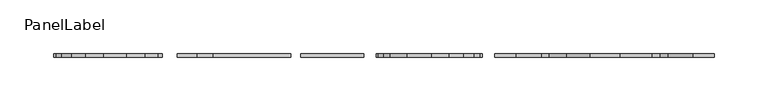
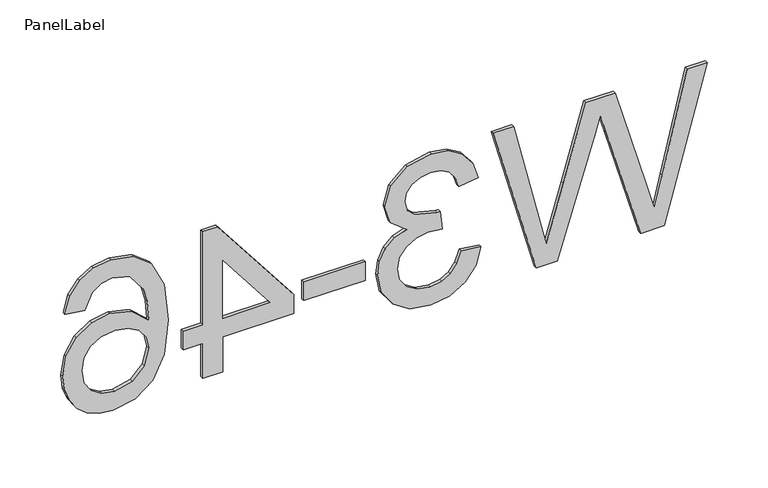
"""IFC4 building model written with IfcOpenShell, lengths in millimetres: fastener geometry, PanelLabel : Miranda."""

from ifc_helpers import new_model, si_unit, frame, origin, place, context, project, spatial, polyline, outline, extrude, source, transform, mapped, element, save


def panellabel_f90ff313(model_context):
    return source(origin(), model_context, "Body", "SweptSolid", [
        extrude(outline(polyline([(1310.9113766, 268.5683654), (1460.9667612, 309.4892308), (1460.9667612, 290.1461538), (1362.3463766, 266.4069231), (1331.9030112, 259.08), (1358.8294535, 251.2401923), (1460.9667612, 221.4928846), (1460.9667612, 193.6139423), (1386.9282035, 171.9995192), (1331.9030112, 155.9169231), (1361.4671458, 148.8098077), (1460.9667612, 124.8507692), (1460.9667612, 105.5076923), (1310.9113766, 146.4651923), (1310.9113766, 166.5043269), (1426.6767612, 202.4795192), (1442.8326266, 207.4984615), (1423.3796458, 213.1401923), (1310.9113766, 245.9281731), (1310.9113766, 268.5683654)])), frame((0.0, 100.80625, 0.0), z_axis=(0.0, 1.0, 0.0), x_axis=(0.0, 0.0, 1.0)), (0.0, 0.0, 1.0), 3.175),
        extrude(outline(polyline([(1350.7698381, 93.7846154), (1353.1144535, 75.0276923), (1341.327266, 70.8284495), (1333.3683958, 64.6784135), (1328.8348622, 56.2753486), (1327.3236843, 45.3170192), (1329.4026987, 32.4582692), (1335.639742, 22.5302885), (1344.9449343, 16.1833413), (1356.2283958, 14.0676923), (1366.9394415, 16.165024), (1375.6264247, 22.4570192), (1381.3826386, 31.9820192), (1383.3013766, 43.7783654), (1381.2498381, 56.9301923), (1400.0067612, 54.8420192), (1399.7869535, 51.8379808), (1405.172242, 30.5532692), (1412.0045977, 23.4644712), (1421.7310881, 21.1015385), (1429.8319174, 22.8142067), (1436.4032516, 27.9522115), (1440.7581915, 35.7920192), (1442.2098381, 45.6100962), (1440.7444535, 55.4464904), (1436.3482997, 63.4877885), (1429.0213766, 69.3584856), (1418.7636843, 72.6830769), (1421.1082997, 91.44), (1437.9510641, 85.9173317), (1450.5258958, 76.0900962), (1458.3565448, 62.6451923), (1460.9667612, 46.2695192), (1455.8195977, 23.6476442), (1441.7519054, 7.8214904), (1422.8301266, 2.3446154), (1405.5385881, 7.5467308), (1393.1194535, 22.9332692), (1388.3752708, 11.191875), (1380.2973381, 2.4911538), (1369.3252708, -2.8941346), (1355.8986843, -4.6892308), (1337.6180112, -1.0990385), (1322.3413766, 9.6715385), (1312.010415, 25.928149), (1308.5667612, 45.9764423), (1311.5066891, 64.1105769), (1320.3264727, 78.8743269), (1333.8171698, 89.1411779), (1350.7698381, 93.7846154)])), frame((0.0, 100.80625, 0.0), z_axis=(0.0, 1.0, 0.0), x_axis=(0.0, 0.0, 1.0)), (0.0, 0.0, 1.0), 3.175),
        extrude(outline(polyline([(-75.0276923, 103.98125), (-16.4123077, 103.98125), (-16.4123077, 100.80625), (-75.0276923, 100.80625), (-75.0276923, 103.98125)])), frame((0.0, 0.0, 1355.4590689), z_axis=(0.0, 0.0, 1.0), x_axis=(1.0, 0.0, 0.0)), (0.0, 0.0, 1.0), 18.7569231),
        extrude(outline(polyline([(1310.9113766, -152.4), (1346.0806073, -152.4), (1346.0806073, -84.4061538), (1364.8375304, -84.4061538), (1458.6221458, -157.0892308), (1458.6221458, -171.1569231), (1364.8375304, -171.1569231), (1364.8375304, -189.9138462), (1346.0806073, -189.9138462), (1346.0806073, -171.1569231), (1310.9113766, -171.1569231), (1310.9113766, -152.4)]), holes=[polyline([(1364.8375304, -152.4), (1422.793492, -152.4), (1364.8375304, -107.4859615), (1364.8375304, -152.4)])]), frame((0.0, 100.80625, 0.0), z_axis=(0.0, 1.0, 0.0), x_axis=(0.0, 0.0, 1.0)), (0.0, 0.0, 1.0), 3.175),
        extrude(outline(polyline([(1421.1082997, -302.4553846), (1418.7636843, -283.6984615), (1434.406665, -276.5913462), (1440.2590448, -268.0829567), (1442.2098381, -257.7977885), (1437.6671458, -240.8725962), (1420.6137323, -228.0687981), (1406.6422059, -224.1809495), (1387.1846458, -222.7384615), (1402.1498862, -239.2789904), (1407.0406073, -259.7760577), (1403.6976987, -277.1042308), (1393.6689727, -291.6481731), (1378.3465448, -301.5120433), (1359.1225304, -304.8), (1345.6913646, -303.2521875), (1333.2401747, -298.60875), (1322.6802468, -291.254351), (1314.922867, -281.5736538), (1310.1557876, -270.006274), (1308.5667612, -256.9918269), (1312.779742, -235.7116947), (1325.4186843, -218.7636058), (1347.729165, -207.6770553), (1380.9567612, -203.9815385), (1418.3149102, -208.0846154), (1443.8583958, -220.3938462), (1456.6896698, -237.199976), (1460.9667612, -258.9700962), (1458.3199102, -275.4281971), (1450.3793573, -288.6075), (1437.767891, -297.8394231), (1421.1082997, -302.4553846)]), holes=[polyline([(1359.4156073, -222.7384615), (1343.1681554, -227.0796635), (1331.3718093, -238.6195673), (1327.3236843, -255.5264423), (1329.421016, -267.904363), (1335.7130112, -277.6354327), (1345.6043573, -283.9411659), (1358.499742, -286.0430769), (1370.8776626, -283.9686418), (1380.3156554, -277.7453365), (1386.2916771, -267.8494111), (1388.2836843, -254.7571154), (1386.2916771, -242.397512), (1380.3156554, -232.0619712), (1371.106629, -225.0693389), (1359.4156073, -222.7384615)])]), frame((0.0, 100.80625, 0.0), z_axis=(0.0, 1.0, 0.0), x_axis=(0.0, 0.0, 1.0)), (0.0, 0.0, 1.0), 3.175),
    ])


if __name__ == "__main__":
    model = new_model("IFC4")
    model_context = context("Model", 3, world=origin())
    ifc_project = project(units=[si_unit("LENGTHUNIT", "METRE", prefix="MILLI")], contexts=[model_context])
    site = spatial("IfcSite", under=ifc_project)
    building = spatial("IfcBuilding", under=site)
    placement = place(None, origin())
    panellabel_shape = panellabel_f90ff313(model_context)
    element("IfcFastener", 1, ObjectType="PanelLabel : Miranda", at=placement, inside=building, context=model_context, shape_type="MappedRepresentation", body=[
        mapped(panellabel_shape, transform((0.0, 0.0, 0.0), x_axis=(1.0, 0.0, 0.0), y_axis=(0.0, 1.0, 0.0), z_axis=(0.0, 0.0, 1.0))),
    ])
    save(model, "model.ifc")
